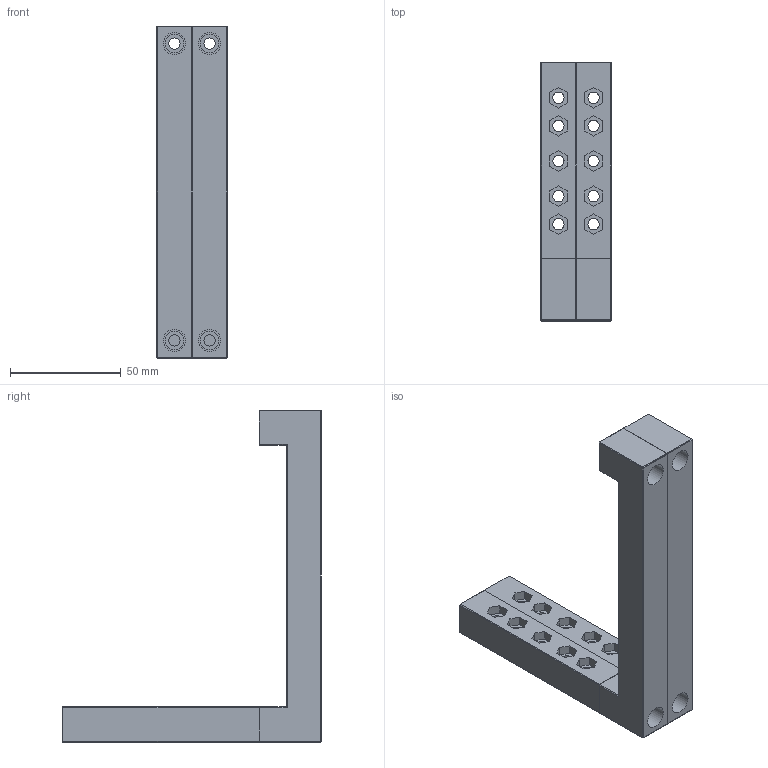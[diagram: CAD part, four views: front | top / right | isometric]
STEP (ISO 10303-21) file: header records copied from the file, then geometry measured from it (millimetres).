
FILE_DESCRIPTION(/* description */ ('','CAx-IF Rec.Pracs.---Representation and Presentation of Product Manufacturing Information (PMI)---4.0---2014-10-13'),/* implementation_level */ '2;1');
FILE_NAME(/* name */ '3D printable rack system.step',/* time_stamp */ '2025-02-01T18:16:13+01:00',/* author */ (''),/* organization */ (''),/* preprocessor_version */ 'ST-DEVELOPER v20',/* originating_system */ 'Autodesk Translation Framework v13.20.0.188',/* authorisation */ '');
FILE_SCHEMA (('AP242_MANAGED_MODEL_BASED_3D_ENGINEERING_MIM_LF { 1 0 10303 442 1 1 4 }'));
Length unit declared in the file: millimetre
Products named in the file (1): 6-inch rack system
Bounding box: 31.75 x 116.9 x 150 mm (x, y, z)
Volume: 180594.5 mm3; surface area: 53458.3 mm2
Topology: 4 solids, 4 shells, 238 faces, 559 edges, 362 vertices
Faces by surface type: plane 199, cylinder 39
Full cylindrical faces by diameter (mm): 5.1 x21, 6.4 x6, 8.5 x6, 10 x6
Entity records: 6836 total; most frequent: CARTESIAN_POINT 1160, ORIENTED_EDGE 1118, DIRECTION 1115, EDGE_CURVE 559, LINE 481, VECTOR 481, VERTEX_POINT 362, AXIS2_PLACEMENT_3D 317
